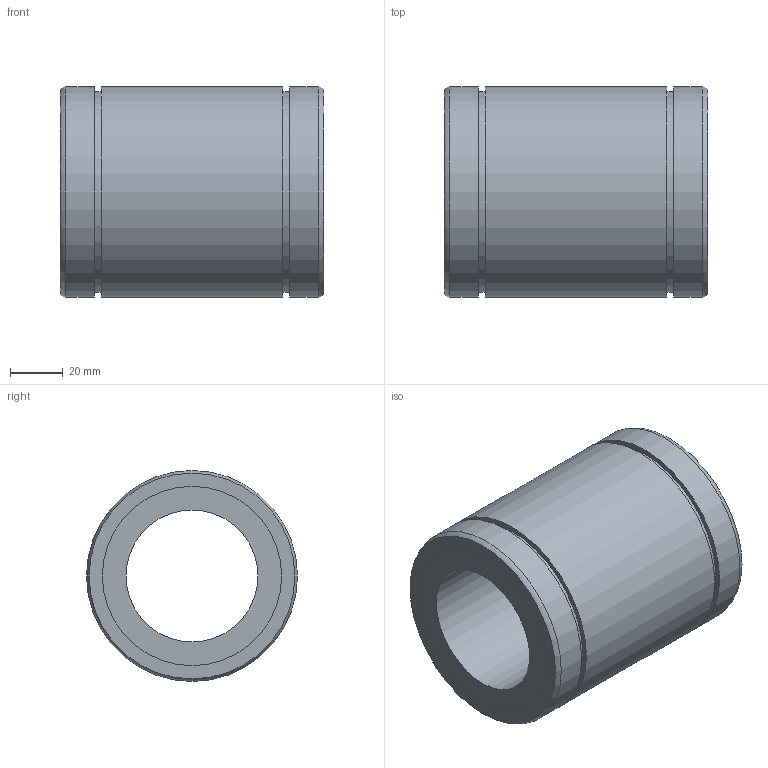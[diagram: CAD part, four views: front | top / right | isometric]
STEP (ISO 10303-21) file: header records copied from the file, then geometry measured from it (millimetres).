
FILE_DESCRIPTION((''),'2;1');
FILE_NAME('D:\製品 (図面)\カタログ用3D\リニアベアリング関連\STEP形式\L\L50.stp','2010-06-02T17:34:09',('Tsuchiya'),(''),'Autodesk Inventor 10','Autodesk Inventor 10','');
FILE_SCHEMA(('AUTOMOTIVE_DESIGN { 1 0 10303 214 1 1 1 1 }'));
Length unit declared in the file: millimetre
Products named in the file (1): L50
Bounding box: 100 x 80 x 80 mm (x, y, z)
Volume: 302991.7 mm3; surface area: 48488.1 mm2
Topology: 1 solids, 1 shells, 18 faces, 28 edges, 18 vertices
Faces by surface type: cylinder 8, plane 8, torus 2
Full cylindrical faces by diameter (mm): 50 x1, 68 x2, 76 x2, 80 x3
Entity records: 391 total; most frequent: DIRECTION 74, CARTESIAN_POINT 55, AXIS2_PLACEMENT_3D 37, ORIENTED_EDGE 36, EDGE_LOOP 36, VERTEX_POINT 18, CIRCLE 18, EDGE_CURVE 18
